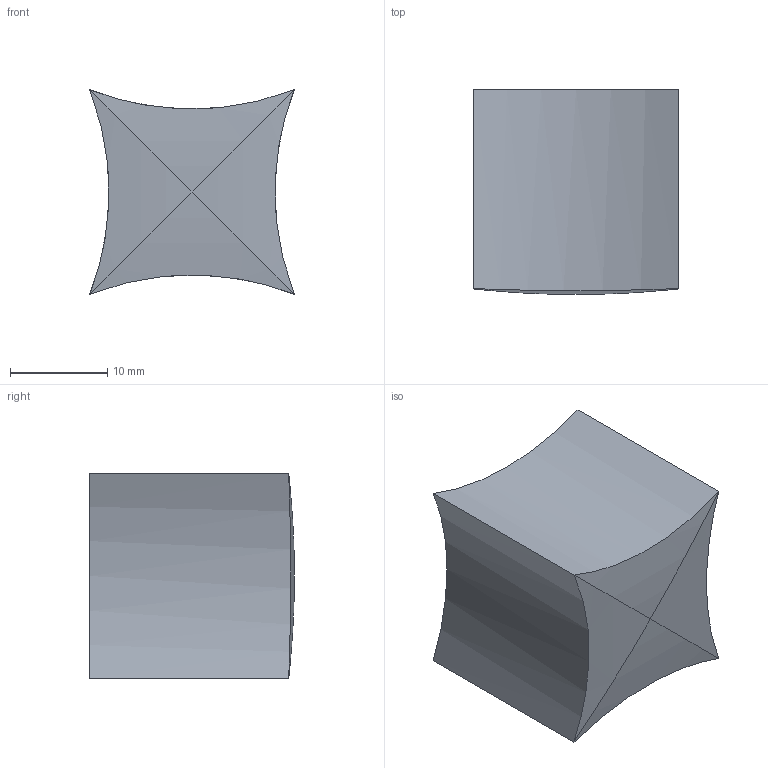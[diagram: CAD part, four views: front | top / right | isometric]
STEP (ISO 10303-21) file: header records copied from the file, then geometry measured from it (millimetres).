
FILE_DESCRIPTION( ( '' ), '1' );
FILE_NAME( 'C:/Documents and Settings/Nikhil/Desktop/Nik/Done/9113635.stp', '2013-10-24T05:13:06', ( '' ), ( '' ), ' ', ' ', ' ' );
FILE_SCHEMA( ( 'automotive_design' ) );
Length unit declared in the file: millimetre
Products named in the file (1): 1
Bounding box: 21 x 21 x 21 mm (x, y, z)
Volume: 4071.9 mm3; surface area: 4128 mm2
Topology: 1 solids, 1 shells, 26 faces, 58 edges, 37 vertices
Faces by surface type: cylinder 18, plane 8
Entity records: 1497 total; most frequent: CARTESIAN_POINT 190, DIRECTION 136, STYLED_ITEM 122, PRESENTATION_STYLE_ASSIGNMENT 122, COLOUR_RGB 122, ORIENTED_EDGE 116, EDGE_CURVE 58, CURVE_STYLE 58
